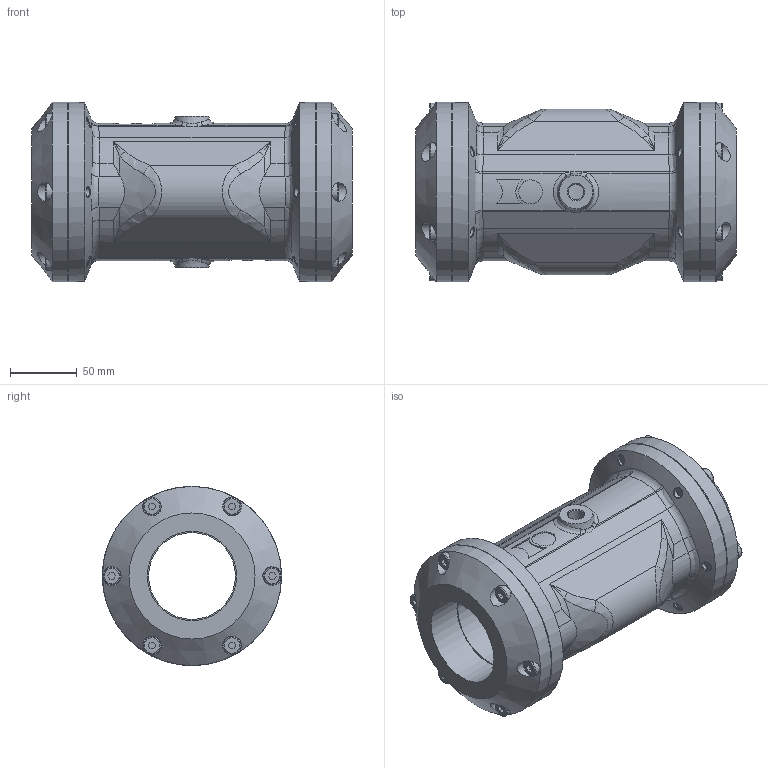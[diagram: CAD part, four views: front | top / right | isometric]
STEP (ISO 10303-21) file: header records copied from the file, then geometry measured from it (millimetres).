
FILE_DESCRIPTION(/* description */ (''),/* implementation_level */ '2;1');
FILE_NAME(/* name */ 'QSV65_assembly_VEREINFACHT.stp',/* time_stamp */ '2013-09-17T21:41:19+02:00',/* author */ (''),/* organization */ (''),/* preprocessor_version */ 'ST-DEVELOPER v11',/* originating_system */ 'SIEMENS PLM Software NX 7.5',/* authorisation */ '');
FILE_SCHEMA (('AUTOMOTIVE_DESIGN { 1 0 10303 214 1 1 1 1 }'));
Length unit declared in the file: millimetre
Products named in the file (1): memdEBF5a2qy
Bounding box: 240 x 134 x 134 mm (x, y, z)
Volume: 1577479.6 mm3; surface area: 225373.3 mm2
Topology: 15 solids, 15 shells, 414 faces, 918 edges, 559 vertices
Faces by surface type: plane 164, cylinder 105, bspline 76, cone 37, torus 32
Full cylindrical faces by diameter (mm): 6.8 x11, 8 x12, 8.5 x12, 11.801 x1, 13 x12, 14 x12, 18 x2, 65 x1, 66.675 x2, 99.7 x2, 109.7 x2, 134 x4
Entity records: 13393 total; most frequent: CARTESIAN_POINT 5247, DIRECTION 1530, ORIENTED_EDGE 1514, EDGE_CURVE 757, AXIS2_PLACEMENT_3D 627, EDGE_LOOP 620, VERTEX_POINT 525, ADVANCED_FACE 414
